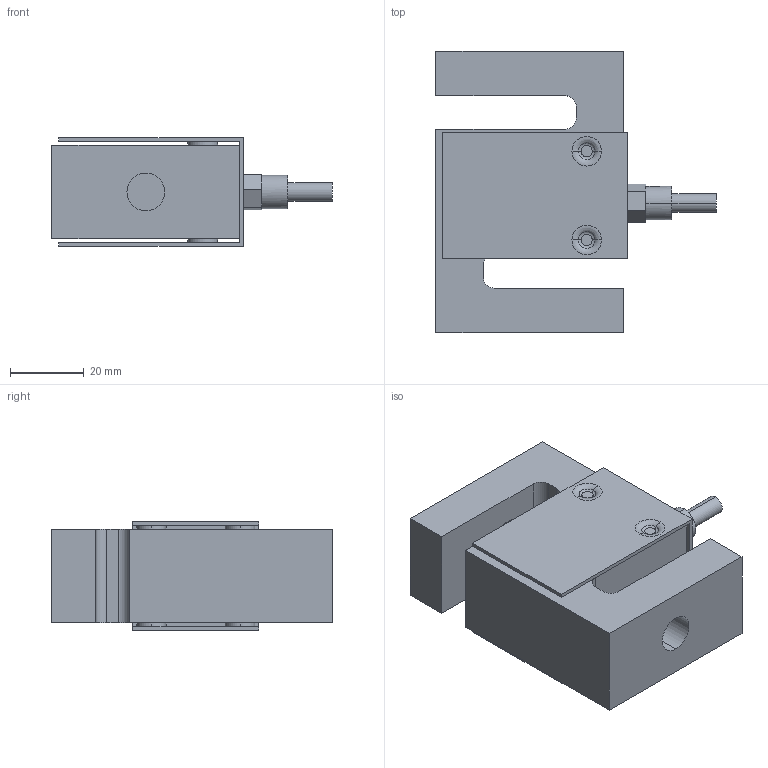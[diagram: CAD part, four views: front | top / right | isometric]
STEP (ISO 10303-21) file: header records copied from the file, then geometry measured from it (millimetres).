
FILE_DESCRIPTION (( 'STEP AP214' ), '1' );
FILE_NAME ('H3 1t.STEP', '2017-11-28T10:27:17', ( '' ), ( '' ), 'SwSTEP 2.0', 'SolidWorks 2018', '' );
FILE_SCHEMA (( 'AUTOMOTIVE_DESIGN' ));
Length unit declared in the file: millimetre
Products named in the file (1): H3 1t
Bounding box: 75.8 x 76.2 x 29.41 mm (x, y, z)
Volume: 84721.8 mm3; surface area: 27610.7 mm2
Topology: 5 solids, 5 shells, 89 faces, 202 edges, 130 vertices
Faces by surface type: plane 49, cylinder 26, torus 14
Entity records: 3581 total; most frequent: DIRECTION 474, CARTESIAN_POINT 422, ORIENTED_EDGE 404, EDGE_CURVE 202, AXIS2_PLACEMENT_3D 182, VERTEX_POINT 130, VECTOR 110, LINE 110
